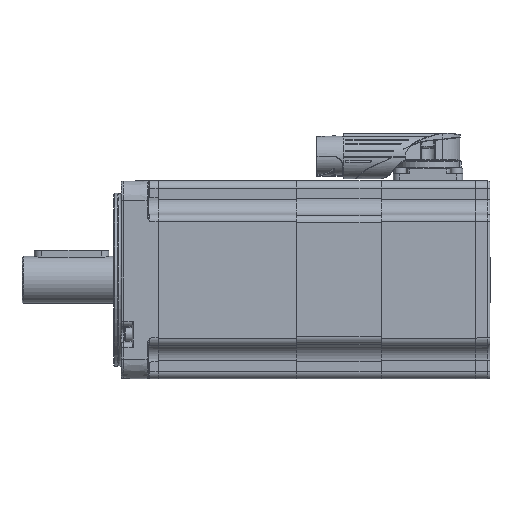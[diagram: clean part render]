
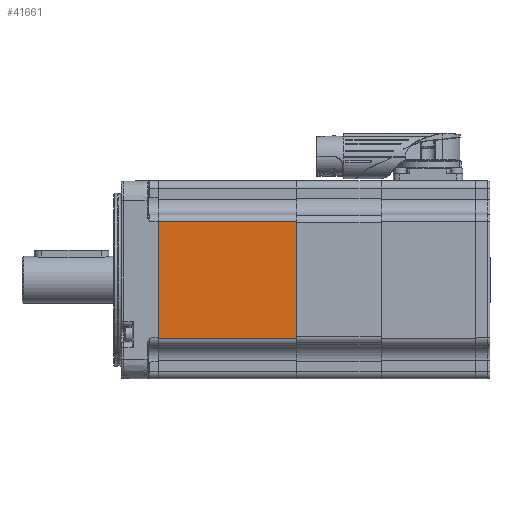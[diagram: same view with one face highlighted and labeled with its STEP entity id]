
A CAD part, left-side view. The second image highlights one B-rep face of the part: STEP entity #41661.
In plain terms, the highlighted planar face has unit normal (-1, 0, 0) as drawn and (0, -1, 0) by its records, which use the part's own axes.
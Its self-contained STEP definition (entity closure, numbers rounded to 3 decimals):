
#5149=LINE('',#111231,#7571);
#5157=LINE('',#111282,#7579);
#5164=LINE('',#111333,#7586);
#5165=LINE('',#111334,#7587);
#7571=VECTOR('',#71961,1000.);
#7579=VECTOR('',#72005,1000.);
#7586=VECTOR('',#72058,1000.);
#7587=VECTOR('',#72059,1000.);
#8522=PLANE('',#61257);
#20193=ORIENTED_EDGE('',*,*,#26201,.T.);
#20194=ORIENTED_EDGE('',*,*,#26179,.T.);
#20195=ORIENTED_EDGE('',*,*,#26202,.T.);
#20196=ORIENTED_EDGE('',*,*,#26154,.T.);
#26154=EDGE_CURVE('',#30051,#30050,#5149,.T.);
#26179=EDGE_CURVE('',#30076,#30075,#5157,.T.);
#26201=EDGE_CURVE('',#30050,#30076,#5164,.F.);
#26202=EDGE_CURVE('',#30075,#30051,#5165,.F.);
#30050=VERTEX_POINT('',#111230);
#30051=VERTEX_POINT('',#111232);
#30075=VERTEX_POINT('',#111281);
#30076=VERTEX_POINT('',#111283);
#35074=EDGE_LOOP('',(#20193,#20194,#20195,#20196));
#38296=FACE_BOUND('',#35074,.T.);
#41661=ADVANCED_FACE('',(#38296),#8522,.T.);
#61257=AXIS2_PLACEMENT_3D('',#111332,#72056,#72057);
#71961=DIRECTION('',(0.,0.,-1.));
#72005=DIRECTION('',(0.,0.,1.));
#72056=DIRECTION('',(0.,-1.,0.));
#72057=DIRECTION('',(0.,0.,-1.));
#72058=DIRECTION('',(-1.,0.,0.));
#72059=DIRECTION('',(1.,0.,0.));
#111230=CARTESIAN_POINT('',(-57.,-40.,-23.5));
#111231=CARTESIAN_POINT('',(-57.,-40.,40.));
#111232=CARTESIAN_POINT('',(-57.,-40.,23.5));
#111281=CARTESIAN_POINT('',(-1.,-40.,23.5));
#111282=CARTESIAN_POINT('',(-1.,-40.,40.));
#111283=CARTESIAN_POINT('',(-1.,-40.,-23.5));
#111332=CARTESIAN_POINT('',(-200.,-40.,40.));
#111333=CARTESIAN_POINT('',(0.,-40.,-23.5));
#111334=CARTESIAN_POINT('',(-200.,-40.,23.5));
